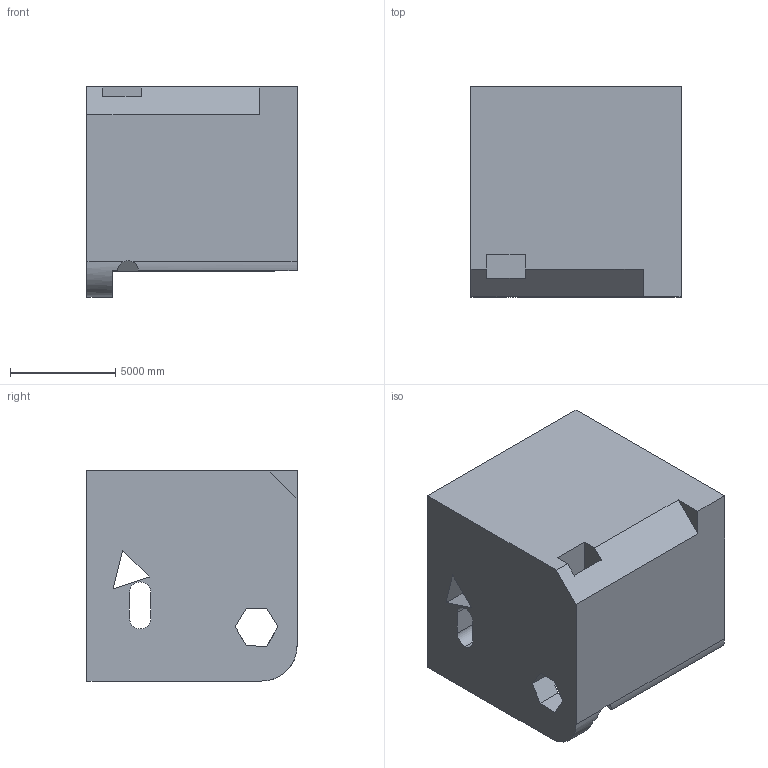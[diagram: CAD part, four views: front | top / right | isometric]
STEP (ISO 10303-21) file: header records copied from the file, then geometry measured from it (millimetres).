
FILE_DESCRIPTION (( 'STEP AP203' ), '1' );
FILE_NAME ('390.STEP', '2022-09-07T13:28:43', ( 'user' ), ( '' ), 'SwSTEP 2.0', 'SolidWorks 2021', '' );
FILE_SCHEMA (( 'CONFIG_CONTROL_DESIGN' ));
Length unit declared in the file: centimetre
Products named in the file (1): 390
Bounding box: 10000 x 10000 x 10000 mm (x, y, z)
Volume: 737362583640.6 mm3; surface area: 744179849 mm2
Topology: 1 solids, 1 shells, 40 faces, 116 edges, 77 vertices
Faces by surface type: plane 32, cylinder 8
Entity records: 1470 total; most frequent: CARTESIAN_POINT 326, ORIENTED_EDGE 232, DIRECTION 205, EDGE_CURVE 116, VECTOR 97, LINE 97, VERTEX_POINT 77, AXIS2_PLACEMENT_3D 54
